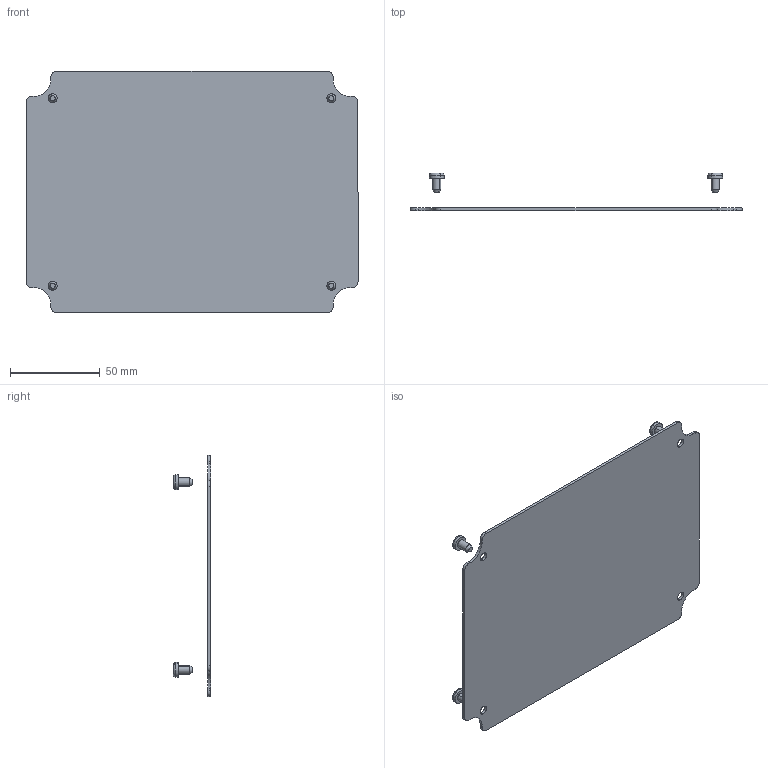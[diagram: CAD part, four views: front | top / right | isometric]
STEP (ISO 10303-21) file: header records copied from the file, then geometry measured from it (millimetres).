
FILE_DESCRIPTION (( 'STEP AP214' ), '1' );
FILE_NAME ('HN-68default.STEP', '2025-12-03T20:27:54', ( '' ), ( '' ), 'SwSTEP 2.0', 'SolidWorks 2025', '' );
FILE_SCHEMA (( 'AUTOMOTIVE_DESIGN' ));
Length unit declared in the file: inch
Products named in the file (3): HN-68P_default; SCREWS-032_SCREWS-032; HN-68default
Assembly tree (5 placements, depth 2):
  HN-68default
    HN-68P_default
    SCREWS-032_SCREWS-032  x4
Bounding box: 185.42 x 20.95 x 134.62 mm (x, y, z)
Volume: 39405.5 mm3; surface area: 50627.9 mm2
Topology: 5 solids, 5 shells, 146 faces, 368 edges, 240 vertices
Faces by surface type: plane 94, cylinder 36, cone 8, torus 8
Entity records: 2068 total; most frequent: DIRECTION 358, CARTESIAN_POINT 342, ORIENTED_EDGE 328, EDGE_CURVE 164, AXIS2_PLACEMENT_3D 124, VECTOR 110, LINE 110, VERTEX_POINT 108
